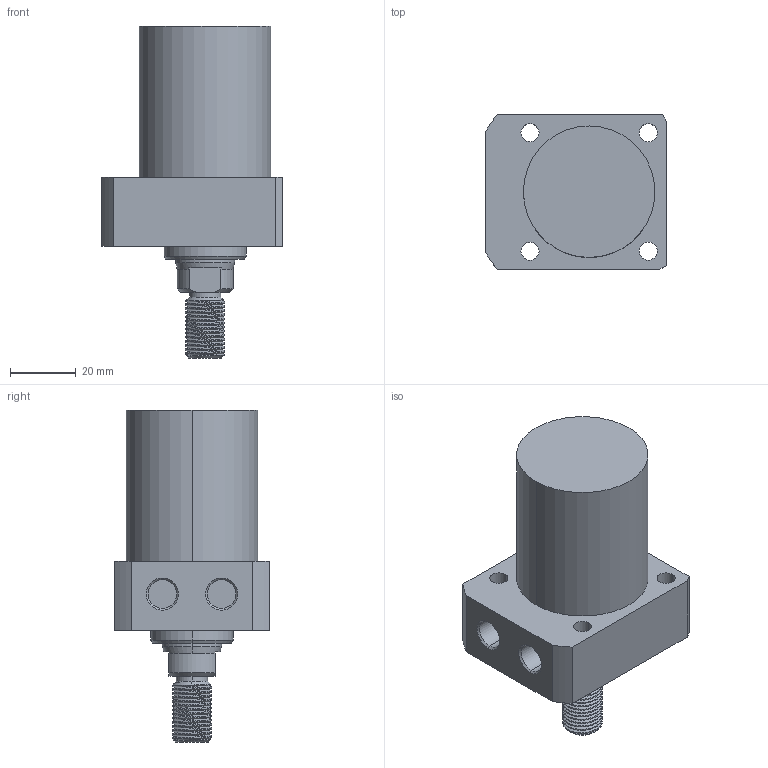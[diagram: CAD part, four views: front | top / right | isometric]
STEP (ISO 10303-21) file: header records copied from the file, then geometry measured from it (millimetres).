
FILE_DESCRIPTION (( 'STEP AP214' ), '1' );
FILE_NAME ('CLLR-040CT-035.STEP', '2020-01-08T10:51:45', ( 'Windows' ), ( 'Microsoft' ), 'SwSTEP 2.0', 'SolidWorks 2015', '' );
FILE_SCHEMA (( 'AUTOMOTIVE_DESIGN' ));
Length unit declared in the file: millimetre
Products named in the file (1): CLLR-040CT-035
Bounding box: 55 x 47 x 101 mm (x, y, z)
Volume: 113840.7 mm3; surface area: 19128 mm2
Topology: 1 solids, 1 shells, 93 faces, 237 edges, 154 vertices
Faces by surface type: cylinder 56, plane 20, cone 15, bspline 2
Entity records: 4518 total; most frequent: CARTESIAN_POINT 2305, ORIENTED_EDGE 474, DIRECTION 424, EDGE_CURVE 237, AXIS2_PLACEMENT_3D 166, VERTEX_POINT 154, EDGE_LOOP 109, FACE_OUTER_BOUND 93
